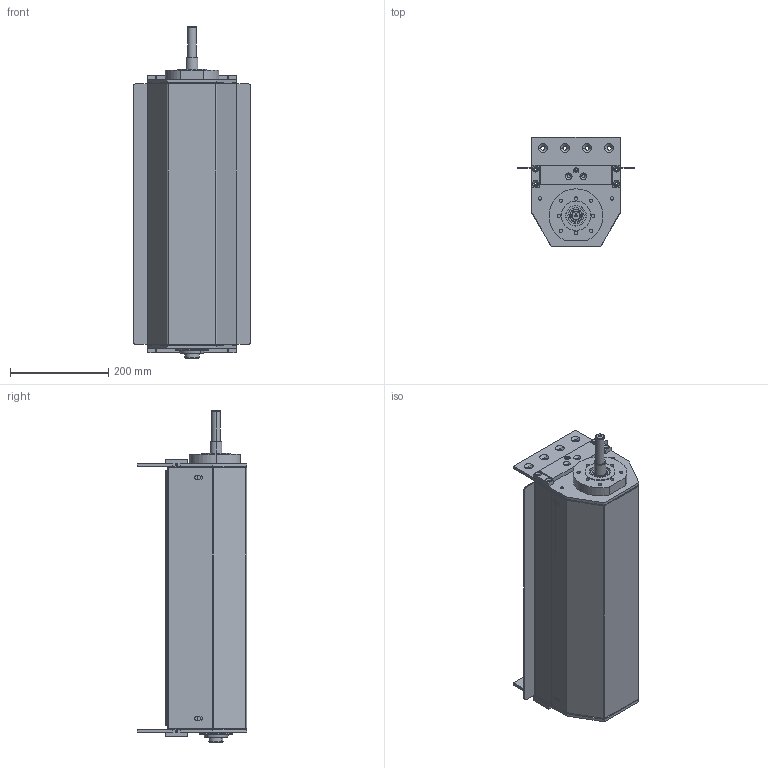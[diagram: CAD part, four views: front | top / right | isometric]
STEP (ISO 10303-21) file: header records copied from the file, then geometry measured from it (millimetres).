
FILE_DESCRIPTION (( 'STEP AP203' ), '1' );
FILE_NAME ('084.095.KCS.44.500.STEP', '2019-07-30T08:19:36', ( '' ), ( '' ), 'SwSTEP 2.0', 'SolidWorks 2018', '' );
FILE_SCHEMA (( 'CONFIG_CONTROL_DESIGN' ));
Length unit declared in the file: millimetre
Products named in the file (19): 084.802.010; 084.812.003; 084.810.003; 084.814.002-1; 084.802.004-1; 084.802.012_Solo centrale; 084.802.046; 084.802.003; Part1^084.095.KCS.44.500_Default<A macchina>; CUSCINETTI A SFERE_6004-2RS; 084.817.042; 084.802.021; 084.802.047; 084.095.KCS.44.500; 084.802.020; 084.802.048; 084.817.039_Default<A macchina>; 084.817.040; 084.817.041
Assembly tree (33 placements, depth 2):
  084.095.KCS.44.500
    084.817.039_Default<A macchina>
    084.817.040
    084.817.041  x2
    084.817.042  x2
    084.802.021
    084.810.003  x2
    084.802.004-1  x4
    084.802.010
    084.802.020
    084.802.003  x2
    CUSCINETTI A SFERE_6004-2RS  x4
    084.812.003
    084.814.002-1
    Part1^084.095.KCS.44.500_Default<A macchina>  x2
    084.802.046
    084.802.047
    084.802.048  x4
    084.802.012_Solo centrale  x2
Bounding box: 240 x 223 x 677 mm (x, y, z)
Volume: 3977188.8 mm3; surface area: 1950281.7 mm2
Topology: 35 solids, 35 shells, 1122 faces, 2798 edges, 1803 vertices
Faces by surface type: plane 515, cylinder 391, cone 138, torus 68, sphere 10
Entity records: 23220 total; most frequent: DIRECTION 3837, CARTESIAN_POINT 3630, ORIENTED_EDGE 3382, EDGE_CURVE 1691, AXIS2_PLACEMENT_3D 1443, VERTEX_POINT 1088, LINE 951, VECTOR 951
